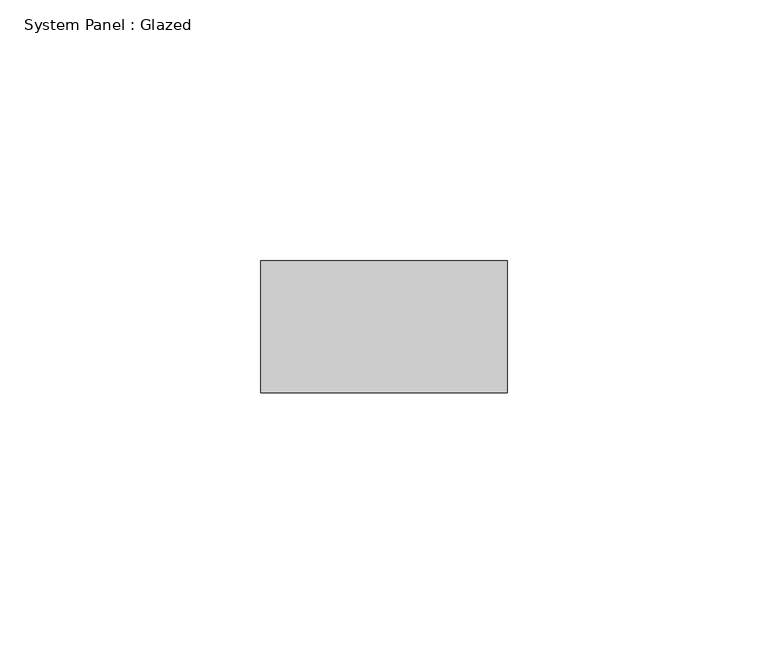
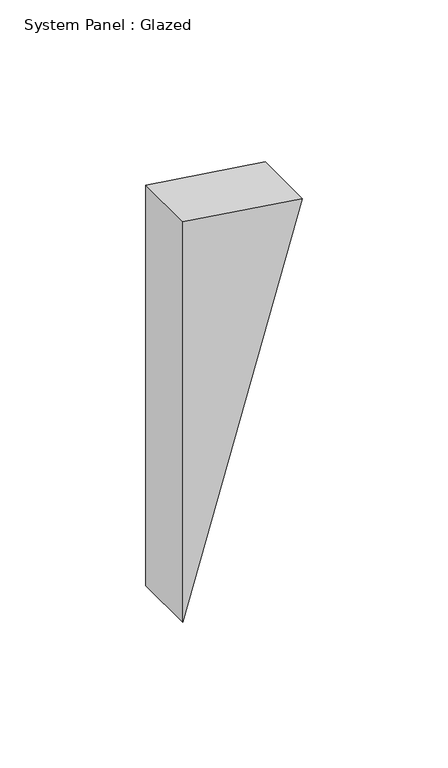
"""IFC4 building model written with IfcOpenShell, lengths in millimetres: plate geometry, System Panel : Glazed."""

from ifc_helpers import new_model, si_unit, frame, origin, place, context, project, spatial, polyline, outline, extrude, source, transform, mapped, element, save


def system_panel_glazed_f06ff00c(model_context):
    return source(origin(), model_context, "Body", "SweptSolid", [
        extrude(outline(polyline([(0.0, -23.6846133), (161.0110452, 23.6846133), (167.8344431, -23.6843813), (0.0, -23.6846133)])), frame((0.0, -44.45, 0.0), z_axis=(0.0, 1.0, 0.0), x_axis=(0.0, 0.0, 1.0)), (0.0, 0.0, 1.0), 25.4),
    ])


if __name__ == "__main__":
    model = new_model("IFC4")
    model_context = context("Model", 3, world=origin())
    ifc_project = project(units=[si_unit("LENGTHUNIT", "METRE", prefix="MILLI")], contexts=[model_context])
    site = spatial("IfcSite", under=ifc_project)
    building = spatial("IfcBuilding", under=site)
    placement = place(None, origin())
    system_panel_glazed_shape = system_panel_glazed_f06ff00c(model_context)
    element("IfcPlate", 1, ObjectType="System Panel : Glazed", at=placement, inside=building, context=model_context, shape_type="MappedRepresentation", body=[
        mapped(system_panel_glazed_shape, transform((0.0, 0.0, 0.0), x_axis=(1.0, 0.0, 0.0), y_axis=(0.0, 1.0, 0.0), z_axis=(0.0, 0.0, 1.0))),
    ])
    save(model, "model.ifc")
